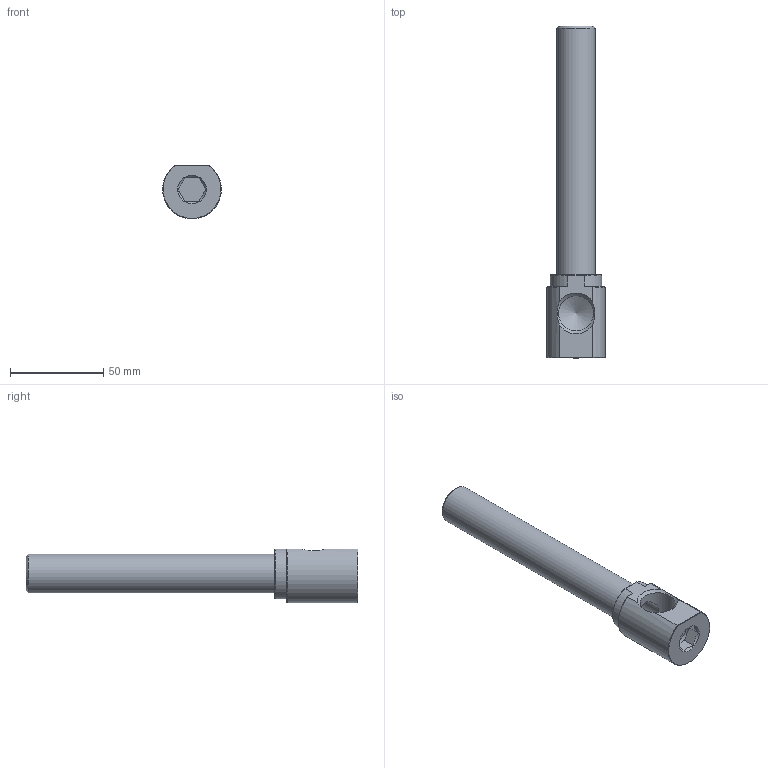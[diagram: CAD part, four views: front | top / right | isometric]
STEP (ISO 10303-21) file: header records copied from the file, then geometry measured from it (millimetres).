
FILE_DESCRIPTION(/* description */ (''),/* implementation_level */ '2;1');
FILE_NAME(/* name */ 'C:/Users/drich/Desktop/EKL50 X 7 v2.step',/* time_stamp */ '2019-11-18T14:43:41-06:00',/* author */ (''),/* organization */ (''),/* preprocessor_version */ 'ST-DEVELOPER v18',/* originating_system */ 'Autodesk Translation Framework v8.12.0.6',/* authorisation */ '');
FILE_SCHEMA (('AUTOMOTIVE_DESIGN { 1 0 10303 214 3 1 1 }'));
Length unit declared in the file: inch
Products named in the file (2): EKL50 X 7; EKL50X 7
Assembly tree (1 placements, depth 2):
  EKL50 X 7
    EKL50X 7
Bounding box: 31.46 x 177.8 x 28.75 mm (x, y, z)
Volume: 46428.1 mm3; surface area: 22258.5 mm2
Topology: 1 solids, 1 shells, 32 faces, 81 edges, 53 vertices
Faces by surface type: plane 16, cone 10, cylinder 6
Full cylindrical faces by diameter (mm): 14.275 x1, 14.986 x1, 18.901 x1, 20.813 x1
Entity records: 1072 total; most frequent: CARTESIAN_POINT 263, ORIENTED_EDGE 160, DIRECTION 156, EDGE_CURVE 80, AXIS2_PLACEMENT_3D 61, VERTEX_POINT 53, EDGE_LOOP 37, LINE 34
